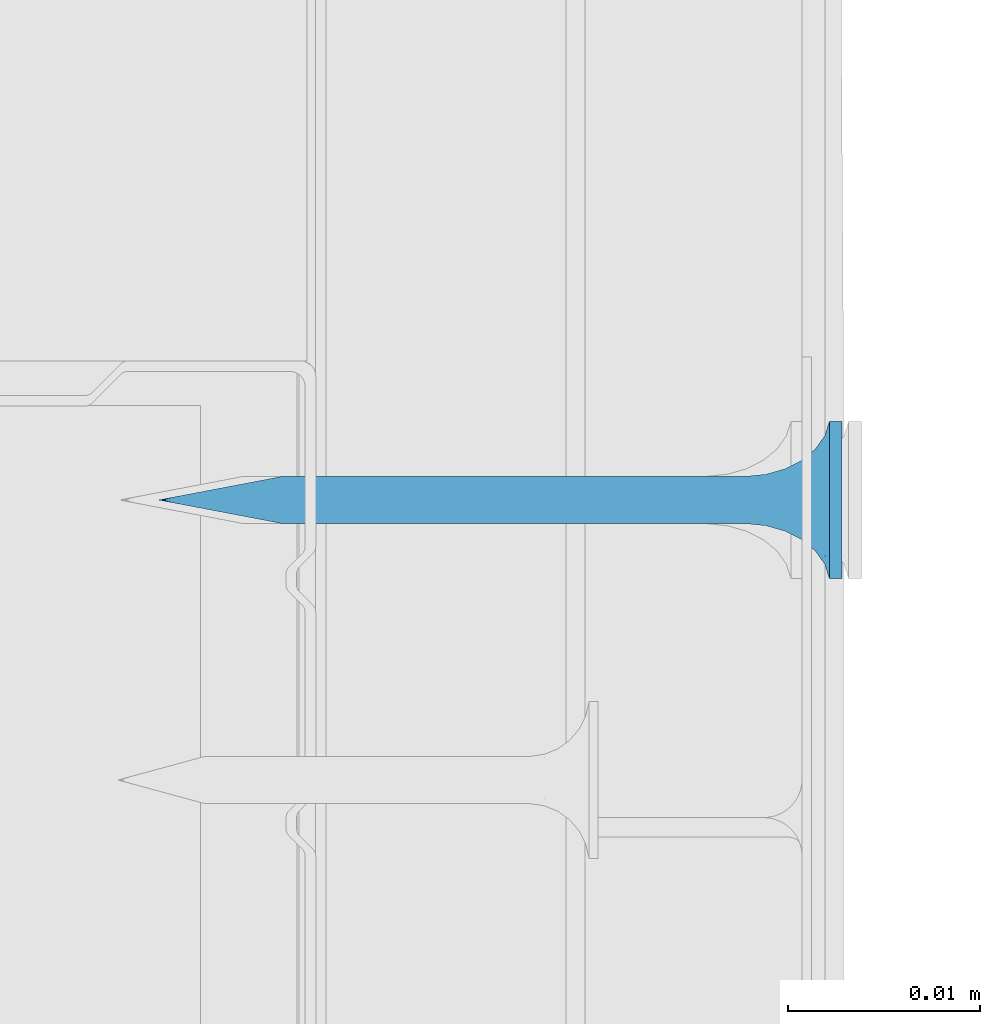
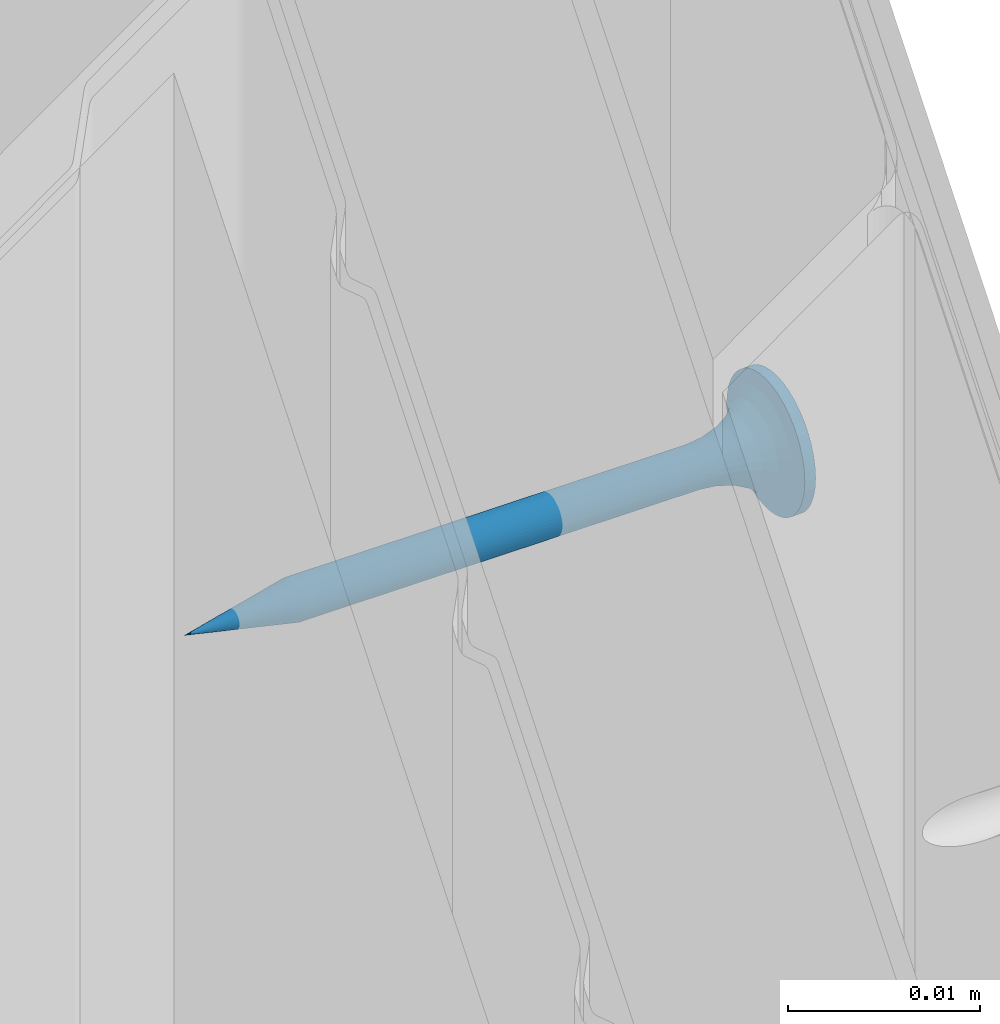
# One storey, part 65 of 95: 1 wall.
"""IFC2X3 building model written with IfcOpenShell, lengths in millimetres."""

from ifc_helpers import new_model, entity, si_unit, converted_unit, direction, frame, origin, origin_with_axes, place, context, project, spatial, faceted_brep, element, save


model = new_model("IFC2X3")

# Units and contexts
model_context = context("Model", 3, precision=1e-05, world=origin(), true_north=direction((0.0, 1.0, 0.0)))
ifc_project = project(units=[si_unit("LENGTHUNIT", "METRE", prefix="MILLI"), si_unit("AREAUNIT", "SQUARE_METRE"), si_unit("VOLUMEUNIT", "CUBIC_METRE"), converted_unit("PLANEANGLEUNIT", "DEGREE", entity("IfcPlaneAngleMeasure", 0.01745), si_unit("PLANEANGLEUNIT", "RADIAN"), dimensions=[0, 0, 0, 0, 0, 0, 0]), si_unit("SOLIDANGLEUNIT", "STERADIAN"), si_unit("MASSUNIT", "GRAM"), si_unit("TIMEUNIT", "SECOND"), si_unit("THERMODYNAMICTEMPERATUREUNIT", "DEGREE_CELSIUS"), si_unit("LUMINOUSINTENSITYUNIT", "LUMEN")], contexts=[model_context])

# Site, building, storey
site_placement = place(None, origin_with_axes())
site = spatial("IfcSite", under=ifc_project, at=site_placement, Name="Default Site", CompositionType="ELEMENT")
building_placement = place(site_placement, origin_with_axes())
building = spatial("IfcBuilding", under=site, at=building_placement, Name="Default Building", CompositionType="ELEMENT")
storey_placement = place(building_placement, origin_with_axes())
storey = spatial("IfcBuildingStorey", under=building, at=storey_placement, Name="Default Building Storey", CompositionType="ELEMENT", Elevation=0.0)

# Wall
wall_placement = place(storey_placement, frame((-1964.902392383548, 1569.934940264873, -324.9096047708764), z_axis=(0.0, 0.0, 1.0), x_axis=(3.748251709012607e-13, 1.0, 0.0)))
element("IfcWall", 1, at=wall_placement, inside=storey, Name="Wkręt RIGIPS TN 35", context=model_context, shape_type="Brep", body=[
    faceted_brep([(-138.5557071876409, -4828.206294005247, 555.2413100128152), (-138.5557071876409, -4804.093757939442, 555.2413100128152), (-138.6296059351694, -4804.093757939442, 555.4197173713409), (-138.6296059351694, -4828.206294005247, 555.4197173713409), (-138.329396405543, -4828.206294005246, 554.9298199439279), (-138.329396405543, -4804.093757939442, 554.9298199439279), (-138.4548091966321, -4804.093757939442, 555.0766594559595), (-138.4548091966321, -4828.206294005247, 555.0766594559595), (-137.0789337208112, -4828.206294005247, 556.9703895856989), (-137.0789337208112, -4804.093757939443, 556.9703895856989), (-136.9005263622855, -4804.093757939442, 556.8964908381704), (-136.9005263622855, -4828.206294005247, 556.8964908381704), (-138.6296059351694, -4804.093757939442, 556.1802826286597), (-138.6296059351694, -4828.206294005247, 556.1802826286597), (-138.6746858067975, -4828.206294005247, 555.9925114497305), (-138.6746858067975, -4804.093757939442, 555.9925114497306), (-138.0179063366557, -4828.206294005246, 554.7035091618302), (-138.0179063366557, -4804.093757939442, 554.7035091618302), (-138.1825568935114, -4804.093757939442, 554.8044071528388), (-138.1825568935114, -4828.206294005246, 554.8044071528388), (-137.83949897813, -4828.206294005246, 554.6296104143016), (-137.83949897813, -4804.093757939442, 554.6296104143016), (-137.4592163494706, -4804.093757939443, 554.5693795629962), (-137.4592163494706, -4828.206294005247, 554.5693795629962), (-137.2667048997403, -4828.206294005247, 554.5845305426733), (-137.2667048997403, -4804.093757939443, 554.5845305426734), (-136.9005263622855, -4804.093757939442, 554.7035091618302), (-136.9005263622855, -4828.206294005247, 554.7035091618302), (-136.7358758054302, -4828.206294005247, 554.8044071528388), (-136.7358758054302, -4804.093757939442, 554.8044071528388), (-138.0179063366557, -4828.206294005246, 556.8964908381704), (-138.0179063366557, -4804.093757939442, 556.8964908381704), (-137.83949897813, -4804.093757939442, 556.9703895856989), (-137.83949897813, -4828.206294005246, 556.9703895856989), (-136.3627255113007, -4828.206294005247, 556.3586899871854), (-136.3627255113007, -4804.093757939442, 556.3586899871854), (-136.2888267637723, -4804.093757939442, 556.1802826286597), (-136.2888267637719, -4828.206294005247, 556.1802826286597), (-138.329396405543, -4828.206294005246, 556.6701800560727), (-138.329396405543, -4804.093757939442, 556.6701800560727), (-138.1825568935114, -4804.093757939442, 556.7955928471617), (-138.1825568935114, -4828.206294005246, 556.7955928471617), (-138.6746858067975, -4804.093757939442, 555.60748855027), (-138.6746858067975, -4828.206294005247, 555.60748855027), (-137.2667048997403, -4828.206294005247, 557.0154694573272), (-137.2667048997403, -4804.093757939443, 557.0154694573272), (-136.2888267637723, -4804.093757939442, 555.4197173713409), (-136.2888267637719, -4828.206294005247, 555.4197173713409), (-136.2437468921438, -4828.206294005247, 555.60748855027), (-136.2437468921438, -4804.093757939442, 555.60748855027), (-136.5890362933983, -4828.206294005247, 554.9298199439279), (-136.5890362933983, -4804.093757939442, 554.9298199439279), (-137.651727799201, -4828.206294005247, 554.5845305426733), (-137.651727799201, -4804.093757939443, 554.5845305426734), (-136.4636235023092, -4828.206294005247, 555.0766594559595), (-136.4636235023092, -4804.093757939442, 555.0766594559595), (-136.7358758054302, -4804.093757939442, 556.7955928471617), (-136.7358758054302, -4828.206294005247, 556.7955928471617), (-136.3627255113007, -4804.093757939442, 555.2413100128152), (-136.3627255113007, -4828.206294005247, 555.2413100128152), (-136.2437468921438, -4828.206294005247, 555.9925114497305), (-136.2437468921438, -4804.093757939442, 555.9925114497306), (-136.2285959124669, -4804.093757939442, 555.8000000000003), (-136.2285959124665, -4828.206294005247, 555.8000000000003), (-138.6898367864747, -4828.206294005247, 555.8000000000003), (-138.6898367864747, -4804.093757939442, 555.8000000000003), (-136.5890362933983, -4828.206294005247, 556.6701800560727), (-136.5890362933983, -4804.093757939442, 556.6701800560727), (-136.4636235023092, -4804.093757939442, 556.5233405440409), (-136.4636235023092, -4828.206294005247, 556.5233405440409), (-137.0789337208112, -4804.093757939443, 554.6296104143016), (-137.0789337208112, -4828.206294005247, 554.6296104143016), (-137.4592163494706, -4804.093757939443, 557.0306204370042), (-137.4592163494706, -4828.206294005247, 557.0306204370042), (-137.651727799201, -4828.206294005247, 557.0154694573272), (-137.651727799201, -4804.093757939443, 557.0154694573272), (-138.5557071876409, -4804.093757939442, 556.3586899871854), (-138.5557071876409, -4828.206294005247, 556.3586899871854), (-138.4548091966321, -4828.206294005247, 556.5233405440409), (-138.4548091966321, -4804.093757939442, 556.5233405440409), (-141.5377463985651, -4832.598051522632, 555.8000000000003), (-141.5377463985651, -4833.259713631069, 555.8000000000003), (-141.4875329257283, -4833.259713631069, 555.1619773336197), (-141.4875329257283, -4832.598051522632, 555.1619773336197), (-141.3381289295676, -4833.259713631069, 554.5396649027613), (-141.3381289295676, -4832.598051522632, 554.5396649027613), (-141.0932132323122, -4833.259713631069, 553.9483861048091), (-141.0932132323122, -4832.598051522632, 553.9483861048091), (-140.7588164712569, -4833.259713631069, 553.4027001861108), (-140.7588164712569, -4832.598051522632, 553.4027001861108), (-140.3431726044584, -4833.259713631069, 552.9160437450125), (-140.4541727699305, -4832.598051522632, 553.0314907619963), (-140.1080097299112, -4832.598051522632, 552.6986614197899), (-139.8565161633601, -4833.259713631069, 552.500399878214), (-139.7251262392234, -4832.598051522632, 552.4088262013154), (-139.3108302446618, -4833.259713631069, 552.1660031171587), (-139.3108302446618, -4832.598051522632, 552.1660031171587), (-138.8708651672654, -4832.598051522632, 551.9735584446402), (-138.7195514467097, -4833.259713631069, 551.9210874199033), (-138.4113302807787, -4832.598051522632, 551.8341600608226), (-137.9385961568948, -4832.598051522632, 551.7497404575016), (-138.0972390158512, -4833.259713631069, 551.7716834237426), (-137.4592163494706, -4833.259713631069, 551.7214699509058), (-137.4592163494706, -4832.598051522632, 551.7214699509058), (-136.8211936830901, -4833.259713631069, 551.7716834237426), (-136.8211936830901, -4832.598051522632, 551.7716834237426), (-136.1988812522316, -4833.259713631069, 551.9210874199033), (-136.1988812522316, -4832.598051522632, 551.9210874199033), (-135.6076024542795, -4833.259713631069, 552.1660031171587), (-135.6076024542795, -4832.598051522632, 552.1660031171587), (-135.0619165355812, -4833.259713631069, 552.500399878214), (-135.0619165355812, -4832.598051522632, 552.500399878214), (-134.5752600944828, -4833.259713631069, 552.9160437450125), (-134.5752600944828, -4832.598051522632, 552.9160437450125), (-134.1596162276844, -4833.259713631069, 553.4027001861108), (-134.1596162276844, -4832.598051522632, 553.4027001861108), (-133.8252194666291, -4833.259713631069, 553.9483861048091), (-133.8252194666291, -4832.598051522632, 553.9483861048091), (-133.5803037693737, -4833.259713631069, 554.5396649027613), (-133.5803037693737, -4832.598051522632, 554.5396649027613), (-133.430899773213, -4833.259713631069, 556.4380226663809), (-133.430899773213, -4832.598051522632, 556.4380226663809), (-133.3806863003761, -4832.598051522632, 555.8000000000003), (-133.3806863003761, -4833.259713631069, 555.8000000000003), (-133.430899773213, -4832.598051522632, 555.1619773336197), (-133.430899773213, -4833.259713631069, 555.1619773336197), (-133.5803037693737, -4833.259713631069, 557.0603350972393), (-133.5803037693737, -4832.598051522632, 557.0603350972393), (-133.8252194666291, -4833.259713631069, 557.6516138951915), (-133.8252194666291, -4832.598051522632, 557.6516138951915), (-134.1596162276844, -4833.259713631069, 558.1972998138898), (-134.1596162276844, -4832.598051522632, 558.1972998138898), (-134.5752600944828, -4833.259713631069, 558.6839562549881), (-134.5752600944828, -4832.598051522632, 558.6839562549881), (-135.0619165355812, -4833.259713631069, 559.0996001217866), (-135.0619165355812, -4832.598051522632, 559.0996001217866), (-135.6076024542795, -4833.259713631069, 559.4339968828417), (-135.6076024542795, -4832.598051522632, 559.4339968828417), (-136.1988812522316, -4833.259713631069, 559.6789125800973), (-136.1988812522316, -4832.598051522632, 559.6789125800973), (-136.8211936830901, -4833.259713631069, 559.8283165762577), (-136.8211936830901, -4832.598051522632, 559.8283165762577), (-137.4592163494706, -4833.259713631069, 559.8785300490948), (-137.4592163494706, -4832.598051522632, 559.8785300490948), (-138.0972390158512, -4833.259713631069, 559.8283165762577), (-138.0972390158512, -4832.598051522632, 559.8283165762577), (-138.7195514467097, -4833.259713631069, 559.6789125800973), (-138.7195514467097, -4832.598051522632, 559.6789125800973), (-139.3108302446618, -4833.259713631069, 559.4339968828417), (-139.3108302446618, -4832.598051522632, 559.4339968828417), (-139.8565161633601, -4833.259713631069, 559.0996001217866), (-139.8565161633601, -4832.598051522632, 559.0996001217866), (-140.3431726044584, -4833.259713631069, 558.6839562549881), (-140.3431726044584, -4832.598051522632, 558.6839562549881), (-140.7588164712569, -4833.259713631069, 558.1972998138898), (-140.7588164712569, -4832.598051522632, 558.1972998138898), (-141.0932132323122, -4833.259713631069, 557.6516138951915), (-141.0932132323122, -4832.598051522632, 557.6516138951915), (-141.3381289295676, -4833.259713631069, 557.0603350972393), (-141.3381289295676, -4832.598051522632, 557.0603350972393), (-141.4875329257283, -4833.259713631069, 556.4380226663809), (-141.4875329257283, -4832.598051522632, 556.4380226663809), (-137.8060615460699, -4829.281368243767, 554.5055560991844), (-137.4592163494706, -4829.281368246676, 554.4598930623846), (-138.1292698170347, -4829.281368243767, 554.6394333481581), (-138.4068150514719, -4829.281368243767, 554.8524012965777), (-138.6197830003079, -4829.281368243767, 555.1299465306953), (-138.7536602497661, -4829.281368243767, 555.4531548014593), (-138.7993232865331, -4829.281368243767, 555.7999999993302), (-138.753660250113, -4829.281368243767, 556.1468451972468), (-138.6197830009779, -4829.281368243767, 556.4700534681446), (-138.4068150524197, -4829.281368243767, 556.7475987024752), (-138.1292698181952, -4829.281368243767, 556.9605666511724), (-137.8060615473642, -4829.281368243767, 557.0944439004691), (-137.4592163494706, -4829.281368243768, 557.1401069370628), (-137.112371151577, -4829.281368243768, 557.0944439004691), (-136.7891628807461, -4829.281368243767, 556.9605666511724), (-136.5116176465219, -4829.281368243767, 556.7475987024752), (-136.2986496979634, -4829.281368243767, 556.4700534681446), (-136.1647724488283, -4829.281368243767, 556.1468451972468), (-136.1191094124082, -4829.281368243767, 555.7999999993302), (-136.1647724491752, -4829.281368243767, 555.4531548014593), (-136.2986496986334, -4829.281368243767, 555.1299465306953), (-136.5116176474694, -4829.281368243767, 554.8524012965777), (-136.7891628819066, -4829.281368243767, 554.6394333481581), (-137.1123711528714, -4829.281368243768, 554.5055560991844), (-137.4592163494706, -4830.288222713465, 554.1737111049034), (-137.8801308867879, -4830.288222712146, 554.229125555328), (-138.2723607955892, -4830.288222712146, 554.3915925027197), (-138.6091762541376, -4830.288222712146, 554.6500400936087), (-138.8676238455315, -4830.288222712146, 554.9868555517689), (-139.0300907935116, -4830.288222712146, 555.3790854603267), (-139.0855052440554, -4830.288222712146, 555.7999999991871), (-139.0300907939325, -4830.288222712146, 556.220914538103), (-138.8676238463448, -4830.288222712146, 556.6131444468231), (-138.6091762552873, -4830.288222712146, 556.9499599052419), (-138.2723607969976, -4830.288222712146, 557.2084074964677), (-137.8801308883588, -4830.288222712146, 557.3708744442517), (-137.4592163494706, -4830.288222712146, 557.426288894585), (-137.0383018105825, -4830.288222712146, 557.3708744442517), (-136.6460719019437, -4830.288222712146, 557.2084074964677), (-136.309256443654, -4830.288222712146, 556.9499599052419), (-136.0508088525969, -4830.288222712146, 556.6131444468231), (-135.8883419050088, -4830.288222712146, 556.220914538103), (-135.8329274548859, -4830.288222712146, 555.7999999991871), (-135.8883419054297, -4830.288222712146, 555.3790854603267), (-136.0508088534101, -4830.288222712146, 554.9868555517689), (-136.309256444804, -4830.288222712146, 554.6500400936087), (-136.6460719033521, -4830.288222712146, 554.3915925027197), (-137.0383018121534, -4830.288222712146, 554.229125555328), (-137.4592163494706, -4831.168773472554, 553.7273431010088), (-137.9956594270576, -4831.168773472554, 553.7979671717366), (-138.4955447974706, -4831.168773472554, 554.0050264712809), (-138.9248060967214, -4831.168773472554, 554.3344102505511), (-139.2541898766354, -4831.168773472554, 554.763671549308), (-139.4612491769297, -4831.168773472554, 555.2635569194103), (-139.5318732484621, -4831.168773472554, 555.799999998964), (-139.461249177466, -4831.168773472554, 556.3364430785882), (-139.2541898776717, -4831.168773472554, 556.8363284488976), (-138.9248060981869, -4831.168773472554, 557.2655897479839), (-138.4955447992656, -4831.168773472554, 557.594973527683), (-137.9956594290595, -4831.168773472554, 557.8020328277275), (-137.4592163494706, -4831.168773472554, 557.8726568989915), (-136.9227732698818, -4831.168773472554, 557.8020328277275), (-136.4228878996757, -4831.168773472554, 557.594973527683), (-135.9936266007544, -4831.168773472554, 557.2655897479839), (-135.6642428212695, -4831.168773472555, 556.8363284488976), (-135.4571835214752, -4831.168773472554, 556.3364430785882), (-135.3865594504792, -4831.168773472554, 555.799999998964), (-135.4571835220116, -4831.168773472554, 555.2635569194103), (-135.6642428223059, -4831.168773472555, 554.763671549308), (-135.9936266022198, -4831.168773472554, 554.3344102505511), (-136.4228879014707, -4831.168773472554, 554.0050264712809), (-136.9227732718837, -4831.168773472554, 553.7979671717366), (-137.459216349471, -4831.872222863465, 553.1465393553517), (-138.1459824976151, -4831.872222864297, 553.2369538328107), (-138.7859466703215, -4831.872222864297, 553.5020356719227), (-139.3354963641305, -4831.872222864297, 553.9237199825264), (-139.7571806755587, -4831.872222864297, 554.4732696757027), (-140.0222625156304, -4831.872222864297, 555.1132338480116), (-140.1126769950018, -4831.872222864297, 555.7999999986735), (-140.0222625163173, -4831.872222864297, 556.4867661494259), (-139.7571806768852, -4831.872222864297, 557.1267303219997), (-139.3354963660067, -4831.872222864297, 557.6762800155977), (-138.7859466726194, -4831.872222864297, 558.097964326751), (-138.1459825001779, -4831.872222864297, 558.363046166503), (-137.459216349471, -4831.872222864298, 558.4534606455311), (-136.7724501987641, -4831.872222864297, 558.363046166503), (-136.1324860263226, -4831.872222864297, 558.097964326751), (-135.5829363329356, -4831.872222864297, 557.6762800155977), (-135.1612520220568, -4831.872222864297, 557.1267303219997), (-134.896170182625, -4831.872222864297, 556.4867661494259), (-134.8057557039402, -4831.872222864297, 555.7999999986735), (-134.8961701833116, -4831.872222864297, 555.1132338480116), (-135.1612520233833, -4831.872222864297, 554.4732696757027), (-135.5829363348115, -4831.872222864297, 553.9237199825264), (-136.1324860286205, -4831.872222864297, 553.5020356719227), (-136.7724502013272, -4831.872222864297, 553.2369538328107), (-137.4592163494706, -4832.357989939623, 552.4648055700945), (-138.3224281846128, -4832.357989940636, 552.578449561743), (-139.1268135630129, -4832.357989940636, 552.9116368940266), (-139.8175549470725, -4832.357989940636, 553.4416613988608), (-140.3475794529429, -4832.357989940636, 554.1324027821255), (-140.6807667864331, -4832.357989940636, 554.936788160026), (-140.7944107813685, -4832.357989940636, 555.7999999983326), (-140.6807667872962, -4832.357989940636, 556.663211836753), (-140.3475794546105, -4832.357989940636, 557.4675972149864), (-139.817554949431, -4832.357989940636, 558.1583385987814), (-139.1268135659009, -4832.357989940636, 558.6883631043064), (-138.3224281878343, -4832.357989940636, 559.0215504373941), (-137.4592163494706, -4832.357989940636, 559.1351944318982), (-136.5960045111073, -4832.357989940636, 559.0215504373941), (-135.7916191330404, -4832.357989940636, 558.6883631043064), (-135.1008777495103, -4832.357989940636, 558.1583385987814), (-134.5708532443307, -4832.357989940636, 557.4675972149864), (-134.2376659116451, -4832.357989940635, 556.663211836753), (-134.1240219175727, -4832.357989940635, 555.7999999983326), (-134.2376659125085, -4832.357989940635, 554.936788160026), (-134.5708532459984, -4832.357989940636, 554.1324027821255), (-135.1008777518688, -4832.357989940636, 553.4416613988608), (-135.7916191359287, -4832.357989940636, 552.9116368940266), (-136.5960045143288, -4832.357989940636, 552.578449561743), (-137.4592163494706, -4797.627063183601, 555.8000000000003), (-139.9592163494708, -4833.259713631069, 556.3000000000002), (-137.9592163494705, -4833.259713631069, 556.3000000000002), (-139.9592163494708, -4833.259713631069, 555.3000000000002), (-137.9592163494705, -4833.259713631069, 555.3000000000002), (-137.9592163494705, -4833.259713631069, 553.3000000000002), (-136.9592163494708, -4833.259713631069, 553.3000000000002), (-136.9592163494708, -4833.259713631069, 555.3000000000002), (-134.9592163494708, -4833.259713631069, 555.3000000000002), (-134.9592163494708, -4833.259713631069, 556.3000000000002), (-136.9592163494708, -4833.259713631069, 556.3000000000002), (-136.9592163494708, -4833.259713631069, 558.3000000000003), (-137.9592163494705, -4833.259713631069, 558.3000000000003), (-136.9592163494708, -4831.988379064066, 556.3000000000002), (-134.9592163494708, -4831.988379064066, 556.3000000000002), (-134.9592163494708, -4831.988379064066, 555.3000000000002), (-136.9592163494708, -4831.988379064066, 555.3000000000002), (-136.9592163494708, -4831.988379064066, 553.3000000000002), (-137.9592163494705, -4831.988379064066, 553.3000000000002), (-137.9592163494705, -4831.988379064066, 555.3000000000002), (-139.9592163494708, -4831.988379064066, 555.3000000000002), (-139.9592163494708, -4831.988379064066, 556.3000000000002), (-137.9592163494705, -4831.988379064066, 556.3000000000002), (-137.9592163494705, -4831.988379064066, 558.3000000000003), (-136.9592163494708, -4831.988379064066, 558.3000000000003)], [[[0, 1, 2, 3]], [[4, 5, 6, 7]], [[8, 9, 10, 11]], [[12, 13, 14, 15]], [[1, 0, 7, 6]], [[16, 17, 18, 19]], [[20, 21, 17, 16]], [[22, 23, 24, 25]], [[26, 27, 28, 29]], [[30, 31, 32, 33]], [[34, 35, 36, 37]], [[38, 39, 40, 41]], [[3, 2, 42, 43]], [[9, 8, 44, 45]], [[46, 47, 48, 49]], [[50, 51, 29, 28]], [[5, 4, 19, 18]], [[21, 20, 52, 53]], [[23, 22, 53, 52]], [[51, 50, 54, 55]], [[11, 10, 56, 57]], [[47, 46, 58, 59]], [[60, 61, 62, 63]], [[64, 65, 15, 14]], [[37, 36, 61, 60]], [[66, 67, 68, 69]], [[27, 26, 70, 71]], [[71, 70, 25, 24]], [[59, 58, 55, 54]], [[63, 62, 49, 48]], [[35, 34, 69, 68]], [[67, 66, 57, 56]], [[72, 73, 74, 75]], [[13, 12, 76, 77]], [[73, 72, 45, 44]], [[39, 38, 78, 79]], [[33, 32, 75, 74]], [[77, 76, 79, 78]], [[31, 30, 41, 40]], [[65, 64, 43, 42]], [[80, 81, 82, 83]], [[84, 85, 83, 82]], [[86, 87, 85, 84]], [[87, 86, 88, 89]], [[88, 90, 89]], [[90, 91, 89]], [[92, 91, 93]], [[91, 90, 93]], [[93, 94, 92]], [[93, 95, 94]], [[95, 96, 94]], [[97, 96, 98]], [[96, 95, 98]], [[98, 99, 97]], [[100, 99, 101]], [[99, 98, 101]], [[101, 102, 100]], [[102, 103, 100]], [[103, 102, 104, 105]], [[106, 107, 105, 104]], [[108, 109, 107, 106]], [[109, 108, 110, 111]], [[112, 113, 111, 110]], [[113, 112, 114, 115]], [[116, 117, 115, 114]], [[118, 119, 117, 116]], [[120, 121, 122, 123]], [[123, 122, 124, 125]], [[119, 118, 125, 124]], [[126, 127, 121, 120]], [[128, 129, 127, 126]], [[129, 128, 130, 131]], [[132, 133, 131, 130]], [[133, 132, 134, 135]], [[136, 137, 135, 134]], [[138, 139, 137, 136]], [[139, 138, 140, 141]], [[142, 143, 141, 140]], [[143, 142, 144, 145]], [[146, 147, 145, 144]], [[148, 149, 147, 146]], [[149, 148, 150, 151]], [[152, 153, 151, 150]], [[153, 152, 154, 155]], [[156, 157, 155, 154]], [[158, 159, 157, 156]], [[159, 158, 160, 161]], [[81, 80, 161, 160]], [[162, 23, 52]], [[162, 163, 23]], [[52, 20, 162]], [[162, 20, 164]], [[16, 164, 20]], [[164, 16, 19]], [[19, 165, 164]], [[19, 4, 165]], [[166, 4, 7]], [[166, 165, 4]], [[7, 0, 166]], [[166, 0, 167]], [[3, 167, 0]], [[167, 3, 43]], [[43, 168, 167]], [[43, 64, 168]], [[169, 64, 14]], [[169, 168, 64]], [[14, 13, 169]], [[169, 13, 170]], [[77, 170, 13]], [[170, 77, 78]], [[78, 171, 170]], [[78, 38, 171]], [[172, 38, 41]], [[172, 171, 38]], [[41, 30, 172]], [[172, 30, 173]], [[33, 173, 30]], [[173, 33, 74]], [[74, 174, 173]], [[74, 73, 174]], [[175, 73, 44]], [[175, 174, 73]], [[44, 8, 175]], [[175, 8, 176]], [[11, 176, 8]], [[176, 11, 57]], [[57, 177, 176]], [[57, 66, 177]], [[178, 66, 69]], [[178, 177, 66]], [[69, 34, 178]], [[178, 34, 179]], [[37, 179, 34]], [[179, 37, 60]], [[60, 180, 179]], [[60, 63, 180]], [[181, 63, 48]], [[181, 180, 63]], [[48, 47, 181]], [[181, 47, 182]], [[59, 182, 47]], [[182, 59, 54]], [[54, 183, 182]], [[54, 50, 183]], [[184, 50, 28]], [[184, 183, 50]], [[28, 27, 184]], [[184, 27, 185]], [[71, 185, 27]], [[185, 71, 24]], [[24, 163, 185]], [[24, 23, 163]], [[186, 163, 187]], [[162, 187, 163]], [[164, 188, 187, 162]], [[165, 189, 188, 164]], [[166, 190, 189, 165]], [[167, 191, 190, 166]], [[168, 192, 191, 167]], [[169, 193, 192, 168]], [[170, 194, 193, 169]], [[171, 195, 194, 170]], [[172, 196, 195, 171]], [[173, 197, 196, 172]], [[174, 198, 197, 173]], [[175, 199, 198, 174]], [[176, 200, 199, 175]], [[177, 201, 200, 176]], [[178, 202, 201, 177]], [[179, 203, 202, 178]], [[180, 204, 203, 179]], [[181, 205, 204, 180]], [[182, 206, 205, 181]], [[183, 207, 206, 182]], [[184, 208, 207, 183]], [[185, 209, 208, 184]], [[185, 163, 209]], [[186, 209, 163]], [[210, 186, 211]], [[187, 211, 186]], [[188, 212, 211, 187]], [[189, 213, 212, 188]], [[190, 214, 213, 189]], [[191, 215, 214, 190]], [[192, 216, 215, 191]], [[193, 217, 216, 192]], [[194, 218, 217, 193]], [[195, 219, 218, 194]], [[196, 220, 219, 195]], [[197, 221, 220, 196]], [[198, 222, 221, 197]], [[199, 223, 222, 198]], [[200, 224, 223, 199]], [[201, 225, 224, 200]], [[202, 226, 225, 201]], [[203, 227, 226, 202]], [[204, 228, 227, 203]], [[205, 229, 228, 204]], [[206, 230, 229, 205]], [[207, 231, 230, 206]], [[208, 232, 231, 207]], [[209, 233, 232, 208]], [[209, 186, 233]], [[210, 233, 186]], [[234, 210, 235]], [[211, 235, 210]], [[212, 236, 235, 211]], [[213, 237, 236, 212]], [[214, 238, 237, 213]], [[215, 239, 238, 214]], [[216, 240, 239, 215]], [[217, 241, 240, 216]], [[218, 242, 241, 217]], [[219, 243, 242, 218]], [[220, 244, 243, 219]], [[221, 245, 244, 220]], [[222, 246, 245, 221]], [[223, 247, 246, 222]], [[224, 248, 247, 223]], [[225, 249, 248, 224]], [[226, 250, 249, 225]], [[227, 251, 250, 226]], [[228, 252, 251, 227]], [[229, 253, 252, 228]], [[230, 254, 253, 229]], [[231, 255, 254, 230]], [[232, 256, 255, 231]], [[233, 257, 256, 232]], [[233, 210, 257]], [[234, 257, 210]], [[258, 99, 100]], [[258, 259, 99]], [[100, 103, 258]], [[258, 234, 259]], [[235, 259, 234]], [[259, 96, 97]], [[259, 260, 96]], [[97, 99, 259]], [[236, 260, 259, 235]], [[261, 91, 92]], [[260, 92, 94]], [[260, 261, 92]], [[94, 96, 260]], [[237, 261, 260, 236]], [[262, 87, 89]], [[89, 261, 262]], [[89, 91, 261]], [[238, 262, 261, 237]], [[85, 87, 263]], [[262, 263, 87]], [[239, 263, 262, 238]], [[263, 80, 83]], [[263, 264, 80]], [[83, 85, 263]], [[240, 264, 263, 239]], [[265, 159, 161]], [[161, 264, 265]], [[161, 80, 264]], [[241, 265, 264, 240]], [[265, 266, 157, 159]], [[242, 266, 265, 241]], [[266, 153, 155]], [[266, 267, 153]], [[155, 157, 266]], [[243, 267, 266, 242]], [[268, 149, 151]], [[151, 267, 268]], [[151, 153, 267]], [[244, 268, 267, 243]], [[268, 269, 147, 149]], [[245, 269, 268, 244]], [[269, 143, 145]], [[269, 270, 143]], [[145, 147, 269]], [[246, 270, 269, 245]], [[271, 139, 141]], [[141, 270, 271]], [[141, 143, 270]], [[247, 271, 270, 246]], [[271, 272, 137, 139]], [[248, 272, 271, 247]], [[272, 133, 135]], [[272, 273, 133]], [[135, 137, 272]], [[249, 273, 272, 248]], [[274, 129, 131]], [[131, 273, 274]], [[131, 133, 273]], [[250, 274, 273, 249]], [[274, 275, 127, 129]], [[251, 275, 274, 250]], [[275, 122, 121]], [[275, 276, 122]], [[121, 127, 275]], [[252, 276, 275, 251]], [[277, 119, 124]], [[124, 276, 277]], [[124, 122, 276]], [[253, 277, 276, 252]], [[117, 119, 278]], [[277, 278, 119]], [[254, 278, 277, 253]], [[278, 113, 115]], [[278, 279, 113]], [[115, 117, 278]], [[255, 279, 278, 254]], [[280, 109, 111]], [[111, 279, 280]], [[111, 113, 279]], [[256, 280, 279, 255]], [[107, 109, 281]], [[280, 281, 109]], [[257, 281, 280, 256]], [[257, 234, 281]], [[258, 281, 234]], [[281, 103, 105]], [[281, 258, 103]], [[105, 107, 281]], [[42, 2, 282]], [[282, 65, 42]], [[2, 1, 282]], [[6, 5, 282]], [[282, 1, 6]], [[18, 17, 282]], [[282, 5, 18]], [[17, 21, 282]], [[53, 22, 282]], [[282, 21, 53]], [[25, 70, 282]], [[282, 22, 25]], [[70, 26, 282]], [[29, 51, 282]], [[282, 26, 29]], [[55, 58, 282]], [[282, 51, 55]], [[58, 46, 282]], [[49, 62, 282]], [[282, 46, 49]], [[61, 36, 282]], [[282, 62, 61]], [[36, 35, 282]], [[68, 67, 282]], [[282, 35, 68]], [[56, 10, 282]], [[282, 67, 56]], [[10, 9, 282]], [[45, 72, 282]], [[282, 9, 45]], [[75, 32, 282]], [[282, 72, 75]], [[32, 31, 282]], [[40, 39, 282]], [[282, 31, 40]], [[79, 76, 282]], [[282, 39, 79]], [[76, 12, 282]], [[15, 65, 282]], [[282, 12, 15]], [[283, 156, 154, 284]], [[283, 285, 286, 287, 288, 289, 290, 291, 292, 293, 294, 284, 154, 152, 150, 148, 146, 144, 142, 140, 138, 136, 134, 132, 130, 128, 126, 120, 123, 125, 118, 116, 114, 112, 110, 108, 106, 104, 102, 101, 98, 95, 93, 90, 88, 86, 84, 82, 81, 160, 158, 156]], [[295, 296, 297, 298, 299, 300, 301, 302, 303, 304, 305, 306]], [[297, 290, 289, 298]], [[296, 291, 290, 297]], [[295, 292, 291, 296]], [[306, 293, 292, 295]], [[305, 294, 293, 306]], [[304, 284, 294, 305]], [[303, 283, 284, 304]], [[302, 285, 283, 303]], [[301, 286, 285, 302]], [[300, 287, 286, 301]], [[299, 288, 287, 300]], [[298, 289, 288, 299]]]),
])

save(model, "model.ifc")
